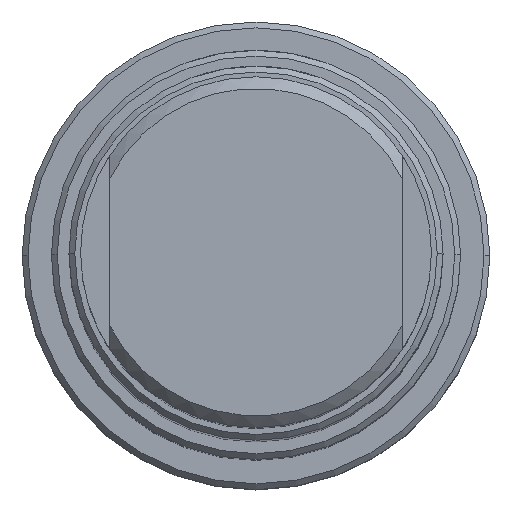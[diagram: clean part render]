
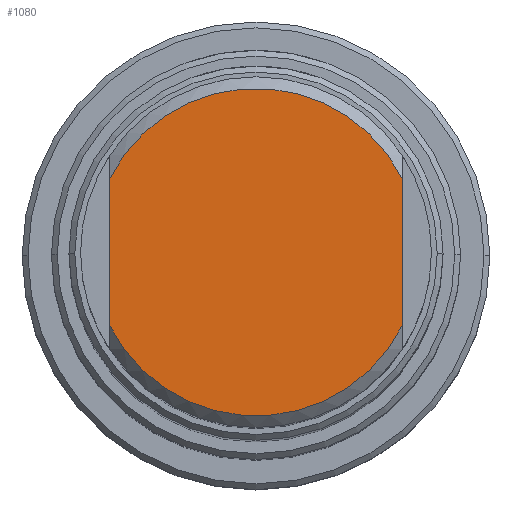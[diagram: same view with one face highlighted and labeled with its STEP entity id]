
A CAD part, top view. The second image highlights one B-rep face of the part: STEP entity #1080.
In plain terms, the highlighted planar face has unit normal (0, 0, 1).
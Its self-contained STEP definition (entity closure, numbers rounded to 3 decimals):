
#115 = ORIENTED_EDGE ( 'NONE', *, *, #865, .T. ) ;
#133 = LINE ( 'NONE', #1021, #588 ) ;
#192 = DIRECTION ( 'NONE',  ( 1., 0., 0. ) ) ;
#234 = VERTEX_POINT ( 'NONE', #990 ) ;
#259 = CARTESIAN_POINT ( 'NONE',  ( -12.5, -24.004, 270. ) ) ;
#289 = EDGE_CURVE ( 'NONE', #901, #505, #823, .T. ) ;
#306 = FACE_OUTER_BOUND ( 'NONE', #696, .T. ) ;
#316 = DIRECTION ( 'NONE',  ( 0., 0., 1. ) ) ;
#321 = CARTESIAN_POINT ( 'NONE',  ( 0., 0., 270. ) ) ;
#347 = CARTESIAN_POINT ( 'NONE',  ( 0., 0., 270. ) ) ;
#390 = DIRECTION ( 'NONE',  ( 0., -1., 0. ) ) ;
#409 = CARTESIAN_POINT ( 'NONE',  ( 12.5, -6.305, 270. ) ) ;
#446 = AXIS2_PLACEMENT_3D ( 'NONE', #758, #1194, #192 ) ;
#505 = VERTEX_POINT ( 'NONE', #836 ) ;
#518 = CIRCLE ( 'NONE', #446, 14. ) ;
#555 = PLANE ( 'NONE',  #1087 ) ;
#568 = DIRECTION ( 'NONE',  ( 0., 1., 0. ) ) ;
#570 = EDGE_CURVE ( 'NONE', #234, #1023, #518, .T. ) ;
#588 = VECTOR ( 'NONE', #568, 1000. ) ;
#622 = CARTESIAN_POINT ( 'NONE',  ( 12.5, 6.305, 270. ) ) ;
#678 = EDGE_CURVE ( 'NONE', #505, #234, #1270, .T. ) ;
#686 = DIRECTION ( 'NONE',  ( 1., 0., 0. ) ) ;
#696 = EDGE_LOOP ( 'NONE', ( #1377, #115, #961, #1219 ) ) ;
#733 = AXIS2_PLACEMENT_3D ( 'NONE', #347, #876, #686 ) ;
#758 = CARTESIAN_POINT ( 'NONE',  ( 0., 0., 270. ) ) ;
#823 = CIRCLE ( 'NONE', #733, 14. ) ;
#836 = CARTESIAN_POINT ( 'NONE',  ( -12.5, 6.305, 270. ) ) ;
#865 = EDGE_CURVE ( 'NONE', #1023, #901, #133, .T. ) ;
#876 = DIRECTION ( 'NONE',  ( 0., 0., 1. ) ) ;
#901 = VERTEX_POINT ( 'NONE', #622 ) ;
#961 = ORIENTED_EDGE ( 'NONE', *, *, #289, .T. ) ;
#989 = DIRECTION ( 'NONE',  ( 1., 0., 0. ) ) ;
#990 = CARTESIAN_POINT ( 'NONE',  ( -12.5, -6.305, 270. ) ) ;
#1021 = CARTESIAN_POINT ( 'NONE',  ( 12.5, -24.004, 270. ) ) ;
#1023 = VERTEX_POINT ( 'NONE', #409 ) ;
#1080 = ADVANCED_FACE ( 'NONE', ( #306 ), #555, .T. ) ;
#1087 = AXIS2_PLACEMENT_3D ( 'NONE', #321, #316, #989 ) ;
#1194 = DIRECTION ( 'NONE',  ( 0., 0., 1. ) ) ;
#1219 = ORIENTED_EDGE ( 'NONE', *, *, #678, .T. ) ;
#1222 = VECTOR ( 'NONE', #390, 1000. ) ;
#1270 = LINE ( 'NONE', #259, #1222 ) ;
#1377 = ORIENTED_EDGE ( 'NONE', *, *, #570, .T. ) ;
